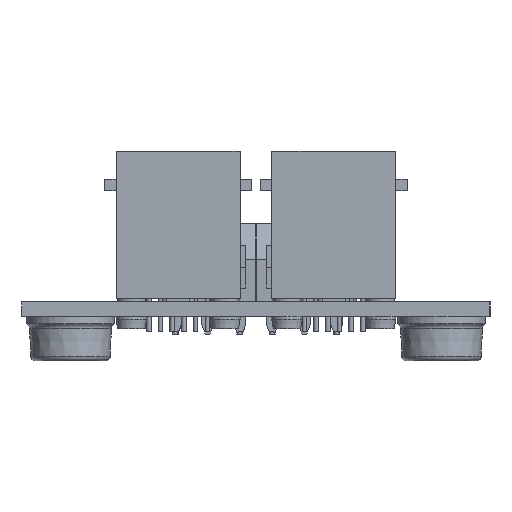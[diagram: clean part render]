
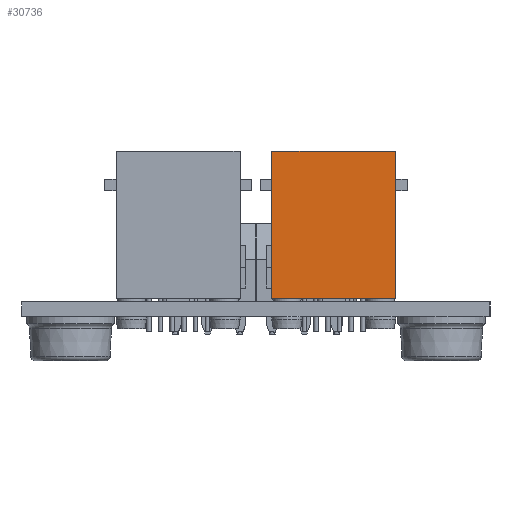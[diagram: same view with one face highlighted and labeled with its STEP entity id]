
A CAD part, left-side view. The second image highlights one B-rep face of the part: STEP entity #30736.
In plain terms, the highlighted planar face has unit normal (-1, 0, 0) as drawn and (0, -1, 0) by its records, which use the part's own axes.
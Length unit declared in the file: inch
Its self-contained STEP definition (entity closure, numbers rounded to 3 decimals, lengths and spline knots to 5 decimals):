
#2096 = VERTEX_POINT ( 'NONE', #7873 ) ;
#2284 = VERTEX_POINT ( 'NONE', #44367 ) ;
#2393 = EDGE_LOOP ( 'NONE', ( #32837, #30012, #28737, #20576 ) ) ;
#3979 = VECTOR ( 'NONE', #14555, 39.37008 ) ;
#4205 = CARTESIAN_POINT ( 'NONE',  ( 0., 0., 0. ) ) ;
#5378 = EDGE_CURVE ( 'NONE', #35158, #2284, #5470, .T. ) ;
#5470 = LINE ( 'NONE', #15224, #43553 ) ;
#5935 = EDGE_CURVE ( 'NONE', #35158, #51726, #43757, .T. ) ;
#7873 = CARTESIAN_POINT ( 'NONE',  ( 0., 0., 0. ) ) ;
#10456 = VECTOR ( 'NONE', #34378, 39.37008 ) ;
#12618 = CARTESIAN_POINT ( 'NONE',  ( 0., 0., -0.62992 ) ) ;
#13746 = DIRECTION ( 'NONE',  ( 1., 0., 0. ) ) ;
#14555 = DIRECTION ( 'NONE',  ( 0., 0., 1. ) ) ;
#15224 = CARTESIAN_POINT ( 'NONE',  ( -0.52992, 0., -0.62992 ) ) ;
#16794 = DIRECTION ( 'NONE',  ( 0., 0., -1. ) ) ;
#16860 = FACE_OUTER_BOUND ( 'NONE', #2393, .T. ) ;
#18155 = EDGE_CURVE ( 'NONE', #51726, #2096, #29306, .T. ) ;
#19300 = CARTESIAN_POINT ( 'NONE',  ( 0., 0., -0.62992 ) ) ;
#20576 = ORIENTED_EDGE ( 'NONE', *, *, #18155, .T. ) ;
#23106 = LINE ( 'NONE', #4205, #10456 ) ;
#23234 = EDGE_CURVE ( 'NONE', #2284, #2096, #23106, .T. ) ;
#28737 = ORIENTED_EDGE ( 'NONE', *, *, #5935, .T. ) ;
#29306 = LINE ( 'NONE', #19300, #3979 ) ;
#30012 = ORIENTED_EDGE ( 'NONE', *, *, #5378, .F. ) ;
#30736 = ADVANCED_FACE ( 'NONE', ( #16860 ), #36839, .T. ) ;
#32837 = ORIENTED_EDGE ( 'NONE', *, *, #23234, .F. ) ;
#34378 = DIRECTION ( 'NONE',  ( 1., 0., 0. ) ) ;
#35158 = VERTEX_POINT ( 'NONE', #39167 ) ;
#36839 = PLANE ( 'NONE',  #39378 ) ;
#38357 = CARTESIAN_POINT ( 'NONE',  ( 0., 0., -0.62992 ) ) ;
#38429 = DIRECTION ( 'NONE',  ( 0., 0., 1. ) ) ;
#39167 = CARTESIAN_POINT ( 'NONE',  ( -0.52992, 0., -0.62992 ) ) ;
#39378 = AXIS2_PLACEMENT_3D ( 'NONE', #12618, #59862, #16794 ) ;
#41543 = VECTOR ( 'NONE', #13746, 39.37008 ) ;
#43553 = VECTOR ( 'NONE', #38429, 39.37008 ) ;
#43757 = LINE ( 'NONE', #38357, #41543 ) ;
#44367 = CARTESIAN_POINT ( 'NONE',  ( -0.52992, 0., 0. ) ) ;
#48117 = CARTESIAN_POINT ( 'NONE',  ( 0., 0., -0.62992 ) ) ;
#51726 = VERTEX_POINT ( 'NONE', #48117 ) ;
#59862 = DIRECTION ( 'NONE',  ( 0., -1., 0. ) ) ;
